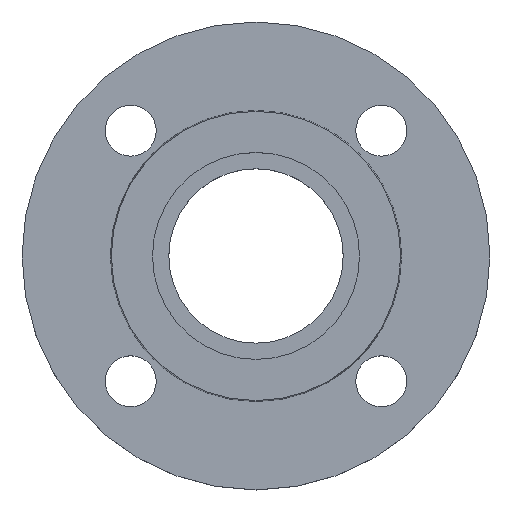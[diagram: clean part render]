
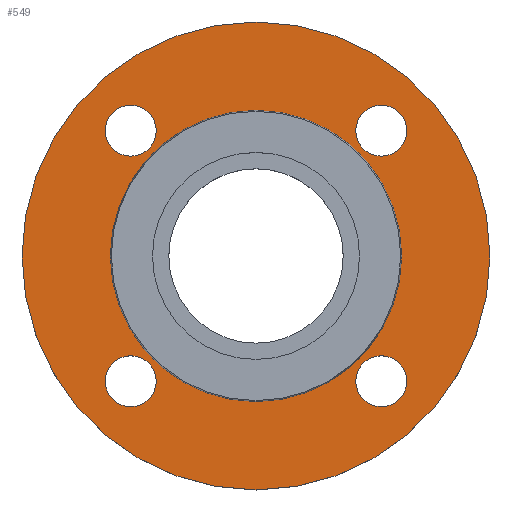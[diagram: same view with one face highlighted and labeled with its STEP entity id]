
A CAD part, top view. The second image highlights one B-rep face of the part: STEP entity #549.
In plain terms, the highlighted planar face has unit normal (0, 0, 1).
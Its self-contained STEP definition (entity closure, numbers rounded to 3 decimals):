
#6 = CIRCLE ( 'NONE', #7, 9. ) ;
#7 = AXIS2_PLACEMENT_3D ( 'NONE', #262, #261, #260 ) ;
#10 = EDGE_CURVE ( 'NONE', #76, #637, #654, .T. ) ;
#23 = CARTESIAN_POINT ( 'NONE',  ( 53.194, 44.194, -2. ) ) ;
#31 = DIRECTION ( 'NONE',  ( 1., 0., 0. ) ) ;
#32 = DIRECTION ( 'NONE',  ( 0., 0., 1. ) ) ;
#33 = CARTESIAN_POINT ( 'NONE',  ( 51.353, 0., -2. ) ) ;
#34 = PLANE ( 'NONE',  #235 ) ;
#35 = FACE_OUTER_BOUND ( 'NONE', #574, .T. ) ;
#36 = FACE_BOUND ( 'NONE', #568, .T. ) ;
#37 = FACE_BOUND ( 'NONE', #607, .T. ) ;
#38 = FACE_BOUND ( 'NONE', #537, .T. ) ;
#39 = FACE_BOUND ( 'NONE', #538, .T. ) ;
#40 = FACE_BOUND ( 'NONE', #515, .T. ) ;
#45 = EDGE_CURVE ( 'NONE', #103, #63, #345, .T. ) ;
#48 = DIRECTION ( 'NONE',  ( 1., 0., 0. ) ) ;
#53 = DIRECTION ( 'NONE',  ( 0., 0., -1. ) ) ;
#55 = CARTESIAN_POINT ( 'NONE',  ( -44.194, -44.194, -2. ) ) ;
#56 = CARTESIAN_POINT ( 'NONE',  ( -51.353, 0., -2. ) ) ;
#63 = VERTEX_POINT ( 'NONE', #473 ) ;
#64 = CIRCLE ( 'NONE', #67, 9. ) ;
#67 = AXIS2_PLACEMENT_3D ( 'NONE', #273, #269, #267 ) ;
#69 = VERTEX_POINT ( 'NONE', #470 ) ;
#75 = VERTEX_POINT ( 'NONE', #458 ) ;
#76 = VERTEX_POINT ( 'NONE', #457 ) ;
#85 = VERTEX_POINT ( 'NONE', #446 ) ;
#86 = CARTESIAN_POINT ( 'NONE',  ( 44.194, 44.194, -2. ) ) ;
#92 = VERTEX_POINT ( 'NONE', #439 ) ;
#103 = VERTEX_POINT ( 'NONE', #421 ) ;
#104 = VERTEX_POINT ( 'NONE', #419 ) ;
#128 = CIRCLE ( 'NONE', #131, 51.353 ) ;
#131 = AXIS2_PLACEMENT_3D ( 'NONE', #230, #228, #225 ) ;
#141 = DIRECTION ( 'NONE',  ( 0., 0., -1. ) ) ;
#143 = EDGE_CURVE ( 'NONE', #85, #539, #216, .T. ) ;
#147 = DIRECTION ( 'NONE',  ( 0., 0., -1. ) ) ;
#170 = DIRECTION ( 'NONE',  ( 1., 0., 0. ) ) ;
#204 = DIRECTION ( 'NONE',  ( -1., 0., 0. ) ) ;
#207 = AXIS2_PLACEMENT_3D ( 'NONE', #409, #408, #407 ) ;
#216 = CIRCLE ( 'NONE', #207, 51.353 ) ;
#225 = DIRECTION ( 'NONE',  ( -1., 0., 0. ) ) ;
#228 = DIRECTION ( 'NONE',  ( 0., 0., -1. ) ) ;
#230 = CARTESIAN_POINT ( 'NONE',  ( 0., 0., -2. ) ) ;
#235 = AXIS2_PLACEMENT_3D ( 'NONE', #33, #32, #31 ) ;
#260 = DIRECTION ( 'NONE',  ( 1., 0., 0. ) ) ;
#261 = DIRECTION ( 'NONE',  ( 0., 0., -1. ) ) ;
#262 = CARTESIAN_POINT ( 'NONE',  ( 44.194, 44.194, -2. ) ) ;
#266 = AXIS2_PLACEMENT_3D ( 'NONE', #483, #482, #481 ) ;
#267 = DIRECTION ( 'NONE',  ( 1., 0., 0. ) ) ;
#269 = DIRECTION ( 'NONE',  ( 0., 0., -1. ) ) ;
#270 = AXIS2_PLACEMENT_3D ( 'NONE', #340, #337, #331 ) ;
#273 = CARTESIAN_POINT ( 'NONE',  ( 44.194, -44.194, -2. ) ) ;
#275 = EDGE_CURVE ( 'NONE', #637, #76, #430, .T. ) ;
#292 = EDGE_CURVE ( 'NONE', #92, #69, #389, .T. ) ;
#293 = CIRCLE ( 'NONE', #270, 9. ) ;
#298 = AXIS2_PLACEMENT_3D ( 'NONE', #370, #369, #368 ) ;
#331 = DIRECTION ( 'NONE',  ( 1., 0., 0. ) ) ;
#337 = DIRECTION ( 'NONE',  ( 0., 0., -1. ) ) ;
#340 = CARTESIAN_POINT ( 'NONE',  ( 44.194, -44.194, -2. ) ) ;
#345 = CIRCLE ( 'NONE', #266, 82.5 ) ;
#359 = CIRCLE ( 'NONE', #444, 9. ) ;
#365 = DIRECTION ( 'NONE',  ( 1., 0., 0. ) ) ;
#366 = DIRECTION ( 'NONE',  ( 0., 0., -1. ) ) ;
#367 = CARTESIAN_POINT ( 'NONE',  ( -44.194, -44.194, -2. ) ) ;
#368 = DIRECTION ( 'NONE',  ( 1., 0., 0. ) ) ;
#369 = DIRECTION ( 'NONE',  ( 0., 0., -1. ) ) ;
#370 = CARTESIAN_POINT ( 'NONE',  ( -44.194, 44.194, -2. ) ) ;
#373 = CIRCLE ( 'NONE', #425, 82.5 ) ;
#383 = AXIS2_PLACEMENT_3D ( 'NONE', #367, #366, #365 ) ;
#389 = CIRCLE ( 'NONE', #383, 9. ) ;
#393 = ORIENTED_EDGE ( 'NONE', *, *, #275, .T. ) ;
#407 = DIRECTION ( 'NONE',  ( -1., 0., 0. ) ) ;
#408 = DIRECTION ( 'NONE',  ( 0., 0., -1. ) ) ;
#409 = CARTESIAN_POINT ( 'NONE',  ( 0., 0., -2. ) ) ;
#419 = CARTESIAN_POINT ( 'NONE',  ( 35.194, 44.194, -2. ) ) ;
#421 = CARTESIAN_POINT ( 'NONE',  ( -82.5, 0., -2. ) ) ;
#425 = AXIS2_PLACEMENT_3D ( 'NONE', #497, #141, #204 ) ;
#430 = CIRCLE ( 'NONE', #298, 9. ) ;
#434 = AXIS2_PLACEMENT_3D ( 'NONE', #55, #53, #48 ) ;
#437 = CIRCLE ( 'NONE', #434, 9. ) ;
#439 = CARTESIAN_POINT ( 'NONE',  ( -53.194, -44.194, -2. ) ) ;
#444 = AXIS2_PLACEMENT_3D ( 'NONE', #86, #147, #170 ) ;
#446 = CARTESIAN_POINT ( 'NONE',  ( 51.353, 0., -2. ) ) ;
#457 = CARTESIAN_POINT ( 'NONE',  ( -53.194, 44.194, -2. ) ) ;
#458 = CARTESIAN_POINT ( 'NONE',  ( 53.194, -44.194, -2. ) ) ;
#470 = CARTESIAN_POINT ( 'NONE',  ( -35.194, -44.194, -2. ) ) ;
#473 = CARTESIAN_POINT ( 'NONE',  ( 82.5, 0., -2. ) ) ;
#479 = CARTESIAN_POINT ( 'NONE',  ( -35.194, 44.194, -2. ) ) ;
#481 = DIRECTION ( 'NONE',  ( -1., 0., 0. ) ) ;
#482 = DIRECTION ( 'NONE',  ( 0., 0., -1. ) ) ;
#483 = CARTESIAN_POINT ( 'NONE',  ( 0., 0., -2. ) ) ;
#495 = EDGE_CURVE ( 'NONE', #553, #104, #6, .T. ) ;
#497 = CARTESIAN_POINT ( 'NONE',  ( 0., 0., -2. ) ) ;
#512 = DIRECTION ( 'NONE',  ( 1., 0., 0. ) ) ;
#513 = DIRECTION ( 'NONE',  ( 0., 0., -1. ) ) ;
#514 = CARTESIAN_POINT ( 'NONE',  ( -44.194, 44.194, -2. ) ) ;
#515 = EDGE_LOOP ( 'NONE', ( #658, #661 ) ) ;
#537 = EDGE_LOOP ( 'NONE', ( #393, #657 ) ) ;
#538 = EDGE_LOOP ( 'NONE', ( #667, #663 ) ) ;
#539 = VERTEX_POINT ( 'NONE', #56 ) ;
#542 = ORIENTED_EDGE ( 'NONE', *, *, #143, .T. ) ;
#543 = ORIENTED_EDGE ( 'NONE', *, *, #670, .T. ) ;
#544 = ORIENTED_EDGE ( 'NONE', *, *, #495, .T. ) ;
#545 = EDGE_CURVE ( 'NONE', #69, #92, #437, .T. ) ;
#547 = ORIENTED_EDGE ( 'NONE', *, *, #616, .T. ) ;
#548 = ORIENTED_EDGE ( 'NONE', *, *, #45, .F. ) ;
#549 = ADVANCED_FACE ( 'NONE', ( #40, #39, #38, #37, #36, #35 ), #34, .T. ) ;
#550 = ORIENTED_EDGE ( 'NONE', *, *, #620, .F. ) ;
#553 = VERTEX_POINT ( 'NONE', #23 ) ;
#568 = EDGE_LOOP ( 'NONE', ( #543, #542 ) ) ;
#574 = EDGE_LOOP ( 'NONE', ( #550, #548 ) ) ;
#590 = CARTESIAN_POINT ( 'NONE',  ( 35.194, -44.194, -2. ) ) ;
#607 = EDGE_LOOP ( 'NONE', ( #544, #547 ) ) ;
#608 = VERTEX_POINT ( 'NONE', #590 ) ;
#616 = EDGE_CURVE ( 'NONE', #104, #553, #359, .T. ) ;
#620 = EDGE_CURVE ( 'NONE', #63, #103, #373, .T. ) ;
#623 = AXIS2_PLACEMENT_3D ( 'NONE', #514, #513, #512 ) ;
#637 = VERTEX_POINT ( 'NONE', #479 ) ;
#651 = EDGE_CURVE ( 'NONE', #608, #75, #293, .T. ) ;
#654 = CIRCLE ( 'NONE', #623, 9. ) ;
#657 = ORIENTED_EDGE ( 'NONE', *, *, #10, .T. ) ;
#658 = ORIENTED_EDGE ( 'NONE', *, *, #664, .T. ) ;
#661 = ORIENTED_EDGE ( 'NONE', *, *, #651, .T. ) ;
#663 = ORIENTED_EDGE ( 'NONE', *, *, #292, .T. ) ;
#664 = EDGE_CURVE ( 'NONE', #75, #608, #64, .T. ) ;
#667 = ORIENTED_EDGE ( 'NONE', *, *, #545, .T. ) ;
#670 = EDGE_CURVE ( 'NONE', #539, #85, #128, .T. ) ;
